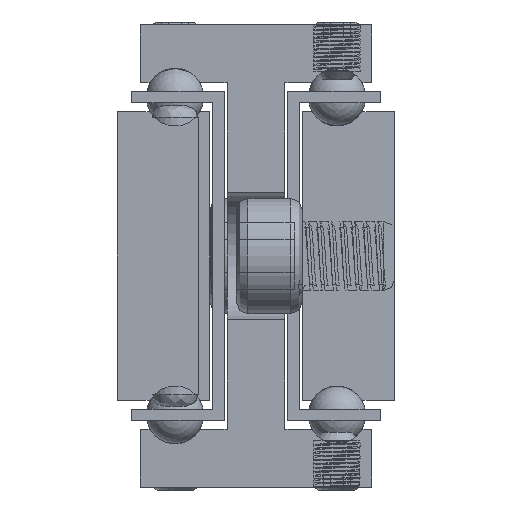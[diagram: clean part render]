
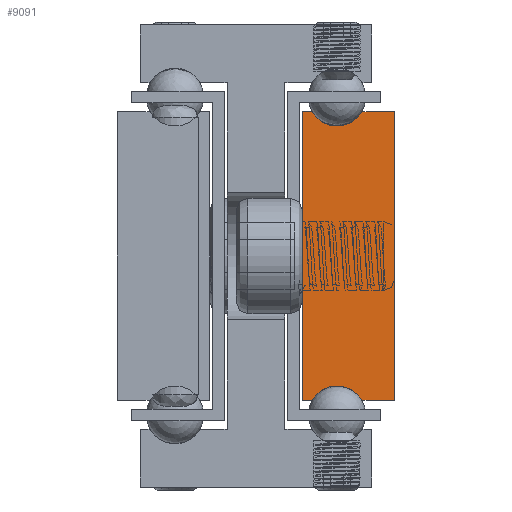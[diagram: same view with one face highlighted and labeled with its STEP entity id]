
A CAD part, front view. The second image highlights one B-rep face of the part: STEP entity #9091.
In plain terms, the highlighted planar face has unit normal (0, -1, 0).
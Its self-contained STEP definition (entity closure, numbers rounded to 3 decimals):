
#518=LINE('',#12792,#1352);
#521=LINE('',#12798,#1355);
#525=LINE('',#12810,#1359);
#528=LINE('',#12816,#1362);
#531=LINE('',#12822,#1365);
#535=LINE('',#12832,#1369);
#1352=VECTOR('',#10496,1.);
#1355=VECTOR('',#10501,1.);
#1359=VECTOR('',#10513,1.);
#1362=VECTOR('',#10518,1.);
#1365=VECTOR('',#10523,1.);
#1369=VECTOR('',#10535,1.);
#2191=PLANE('',#9753);
#2757=FACE_OUTER_BOUND('',#3337,.T.);
#3337=EDGE_LOOP('',(#6556,#6557,#6558,#6559,#6560,#6561,#6562,#6563));
#4085=CIRCLE('',#9744,2.5);
#4087=CIRCLE('',#9750,2.5);
#4312=VERTEX_POINT('',#12789);
#4313=VERTEX_POINT('',#12791);
#4315=VERTEX_POINT('',#12797);
#4317=VERTEX_POINT('',#12803);
#4319=VERTEX_POINT('',#12809);
#4321=VERTEX_POINT('',#12815);
#4323=VERTEX_POINT('',#12821);
#4325=VERTEX_POINT('',#12827);
#5254=EDGE_CURVE('',#4313,#4312,#518,.T.);
#5257=EDGE_CURVE('',#4315,#4313,#521,.T.);
#5260=EDGE_CURVE('',#4317,#4315,#4085,.T.);
#5263=EDGE_CURVE('',#4319,#4317,#525,.T.);
#5266=EDGE_CURVE('',#4321,#4319,#528,.T.);
#5269=EDGE_CURVE('',#4323,#4321,#531,.T.);
#5272=EDGE_CURVE('',#4325,#4323,#4087,.T.);
#5275=EDGE_CURVE('',#4312,#4325,#535,.T.);
#6556=ORIENTED_EDGE('',*,*,#5275,.T.);
#6557=ORIENTED_EDGE('',*,*,#5272,.T.);
#6558=ORIENTED_EDGE('',*,*,#5269,.T.);
#6559=ORIENTED_EDGE('',*,*,#5266,.T.);
#6560=ORIENTED_EDGE('',*,*,#5263,.T.);
#6561=ORIENTED_EDGE('',*,*,#5260,.T.);
#6562=ORIENTED_EDGE('',*,*,#5257,.T.);
#6563=ORIENTED_EDGE('',*,*,#5254,.T.);
#9091=ADVANCED_FACE('',(#2757),#2191,.T.);
#9744=AXIS2_PLACEMENT_3D('',#12804,#10507,#10508);
#9750=AXIS2_PLACEMENT_3D('',#12828,#10529,#10530);
#9753=AXIS2_PLACEMENT_3D('',#12834,#10538,#10539);
#10496=DIRECTION('',(0.,0.,-1.));
#10501=DIRECTION('',(-1.,0.,0.));
#10507=DIRECTION('center_axis',(0.,1.,0.));
#10508=DIRECTION('ref_axis',(-0.866,0.,-0.5));
#10513=DIRECTION('',(-1.,0.,0.));
#10518=DIRECTION('',(0.,0.,1.));
#10523=DIRECTION('',(1.,0.,0.));
#10529=DIRECTION('center_axis',(0.,1.,0.));
#10530=DIRECTION('ref_axis',(0.866,0.,0.5));
#10535=DIRECTION('',(1.,0.,0.));
#10538=DIRECTION('center_axis',(0.,-1.,0.));
#10539=DIRECTION('ref_axis',(1.,0.,0.));
#12789=CARTESIAN_POINT('',(2870.636,888.343,312.5));
#12791=CARTESIAN_POINT('',(2870.636,888.343,337.5));
#12792=CARTESIAN_POINT('',(2870.636,888.343,312.5));
#12797=CARTESIAN_POINT('',(2871.471,888.343,337.5));
#12798=CARTESIAN_POINT('',(2870.636,888.343,337.5));
#12803=CARTESIAN_POINT('',(2875.801,888.343,337.5));
#12804=CARTESIAN_POINT('Origin',(2873.636,888.343,338.75));
#12809=CARTESIAN_POINT('',(2878.636,888.343,337.5));
#12810=CARTESIAN_POINT('',(2875.801,888.343,337.5));
#12815=CARTESIAN_POINT('',(2878.636,888.343,312.5));
#12816=CARTESIAN_POINT('',(2878.636,888.343,337.5));
#12821=CARTESIAN_POINT('',(2875.801,888.343,312.5));
#12822=CARTESIAN_POINT('',(2878.636,888.343,312.5));
#12827=CARTESIAN_POINT('',(2871.471,888.343,312.5));
#12828=CARTESIAN_POINT('Origin',(2873.636,888.343,311.25));
#12832=CARTESIAN_POINT('',(2871.471,888.343,312.5));
#12834=CARTESIAN_POINT('Origin',(2874.648,888.343,325.));
